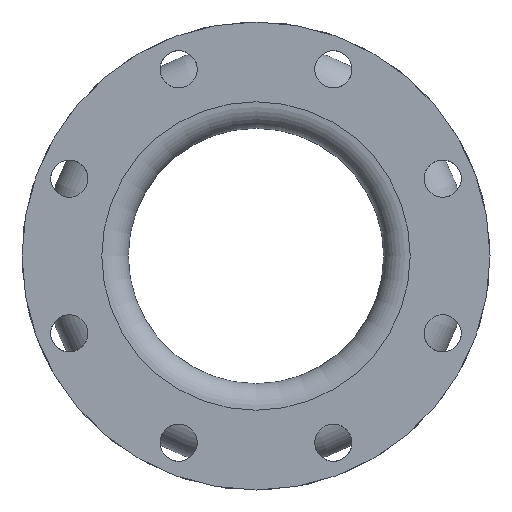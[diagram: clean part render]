
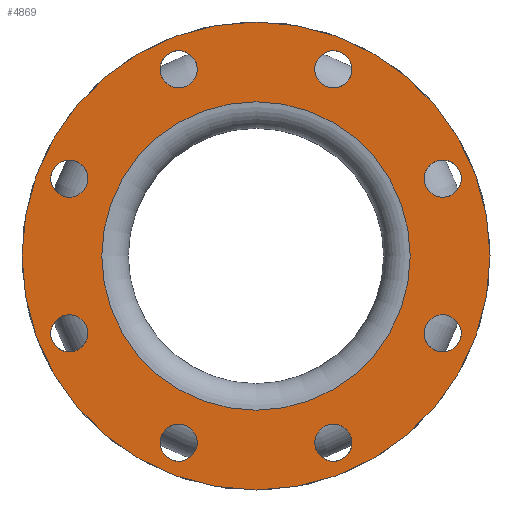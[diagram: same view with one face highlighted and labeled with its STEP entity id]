
A CAD part, left-side view. The second image highlights one B-rep face of the part: STEP entity #4869.
In plain terms, the highlighted planar face has unit normal (-1, 0, 0).
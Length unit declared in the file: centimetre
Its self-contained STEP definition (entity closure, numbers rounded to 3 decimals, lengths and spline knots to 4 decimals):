
#94=FACE_BOUND('',#847,.T.);
#95=FACE_BOUND('',#848,.T.);
#96=FACE_BOUND('',#849,.T.);
#97=FACE_BOUND('',#850,.T.);
#98=FACE_BOUND('',#851,.T.);
#99=FACE_BOUND('',#852,.T.);
#100=FACE_BOUND('',#853,.T.);
#101=FACE_BOUND('',#854,.T.);
#102=FACE_BOUND('',#855,.T.);
#103=FACE_BOUND('',#856,.T.);
#847=EDGE_LOOP('',(#3715));
#848=EDGE_LOOP('',(#3716));
#849=EDGE_LOOP('',(#3717));
#850=EDGE_LOOP('',(#3718));
#851=EDGE_LOOP('',(#3719));
#852=EDGE_LOOP('',(#3720));
#853=EDGE_LOOP('',(#3721));
#854=EDGE_LOOP('',(#3722));
#855=EDGE_LOOP('',(#3723));
#856=EDGE_LOOP('',(#3724));
#1702=CIRCLE('',#5311,1.1113);
#1704=CIRCLE('',#5314,1.1113);
#1706=CIRCLE('',#5317,1.1113);
#1708=CIRCLE('',#5320,1.1113);
#1710=CIRCLE('',#5323,1.1113);
#1712=CIRCLE('',#5326,1.1113);
#1714=CIRCLE('',#5329,1.1113);
#1716=CIRCLE('',#5332,1.1113);
#1744=CIRCLE('',#5379,9.2075);
#1745=CIRCLE('',#5381,13.97);
#2150=VERTEX_POINT('',#7975);
#2152=VERTEX_POINT('',#7980);
#2154=VERTEX_POINT('',#7985);
#2156=VERTEX_POINT('',#7990);
#2158=VERTEX_POINT('',#7995);
#2160=VERTEX_POINT('',#8000);
#2162=VERTEX_POINT('',#8005);
#2164=VERTEX_POINT('',#8010);
#2192=VERTEX_POINT('',#8085);
#2193=VERTEX_POINT('',#8088);
#2710=EDGE_CURVE('',#2150,#2150,#1702,.T.);
#2712=EDGE_CURVE('',#2152,#2152,#1704,.T.);
#2714=EDGE_CURVE('',#2154,#2154,#1706,.T.);
#2716=EDGE_CURVE('',#2156,#2156,#1708,.T.);
#2718=EDGE_CURVE('',#2158,#2158,#1710,.T.);
#2720=EDGE_CURVE('',#2160,#2160,#1712,.T.);
#2722=EDGE_CURVE('',#2162,#2162,#1714,.T.);
#2724=EDGE_CURVE('',#2164,#2164,#1716,.T.);
#2752=EDGE_CURVE('',#2192,#2192,#1744,.T.);
#2753=EDGE_CURVE('',#2193,#2193,#1745,.T.);
#3715=ORIENTED_EDGE('',*,*,#2710,.T.);
#3716=ORIENTED_EDGE('',*,*,#2712,.T.);
#3717=ORIENTED_EDGE('',*,*,#2714,.T.);
#3718=ORIENTED_EDGE('',*,*,#2716,.T.);
#3719=ORIENTED_EDGE('',*,*,#2718,.T.);
#3720=ORIENTED_EDGE('',*,*,#2720,.T.);
#3721=ORIENTED_EDGE('',*,*,#2722,.T.);
#3722=ORIENTED_EDGE('',*,*,#2724,.T.);
#3723=ORIENTED_EDGE('',*,*,#2753,.F.);
#3724=ORIENTED_EDGE('',*,*,#2752,.T.);
#4413=PLANE('',#5380);
#4869=ADVANCED_FACE('',(#94,#95,#96,#97,#98,#99,#100,#101,#102,#103),#4413,
 .T.);
#5311=AXIS2_PLACEMENT_3D('',#7976,#6433,#6434);
#5314=AXIS2_PLACEMENT_3D('',#7981,#6439,#6440);
#5317=AXIS2_PLACEMENT_3D('',#7986,#6445,#6446);
#5320=AXIS2_PLACEMENT_3D('',#7991,#6451,#6452);
#5323=AXIS2_PLACEMENT_3D('',#7996,#6457,#6458);
#5326=AXIS2_PLACEMENT_3D('',#8001,#6463,#6464);
#5329=AXIS2_PLACEMENT_3D('',#8006,#6469,#6470);
#5332=AXIS2_PLACEMENT_3D('',#8011,#6475,#6476);
#5379=AXIS2_PLACEMENT_3D('',#8086,#6569,#6570);
#5380=AXIS2_PLACEMENT_3D('',#8087,#6571,#6572);
#5381=AXIS2_PLACEMENT_3D('',#8089,#6573,#6574);
#6433=DIRECTION('center_axis',(1.,0.,0.));
#6434=DIRECTION('ref_axis',(0.,-0.707,0.707));
#6439=DIRECTION('center_axis',(1.,0.,0.));
#6440=DIRECTION('ref_axis',(0.,0.,
1.));
#6445=DIRECTION('center_axis',(1.,0.,0.));
#6446=DIRECTION('ref_axis',(0.,0.707,0.707));
#6451=DIRECTION('center_axis',(1.,0.,0.));
#6452=DIRECTION('ref_axis',(0.,1.,0.));
#6457=DIRECTION('center_axis',(1.,0.,0.));
#6458=DIRECTION('ref_axis',(0.,0.707,-0.707));
#6463=DIRECTION('center_axis',(1.,0.,0.));
#6464=DIRECTION('ref_axis',(0.,0.,-1.));
#6469=DIRECTION('center_axis',(1.,0.,0.));
#6470=DIRECTION('ref_axis',(0.,-0.707,-0.707));
#6475=DIRECTION('center_axis',(1.,0.,0.));
#6476=DIRECTION('ref_axis',(0.,-1.,0.));
#6569=DIRECTION('center_axis',(1.,0.,0.));
#6570=DIRECTION('ref_axis',(0.,0.,-1.));
#6571=DIRECTION('center_axis',(-1.,0.,0.));
#6572=DIRECTION('ref_axis',(0.,0.,1.));
#6573=DIRECTION('center_axis',(1.,0.,0.));
#6574=DIRECTION('ref_axis',(0.,0.,-1.));
#7975=CARTESIAN_POINT('',(-12.7,5.4028,-11.9324));
#7976=CARTESIAN_POINT('Origin',(-12.7,4.6171,-11.1466));
#7980=CARTESIAN_POINT('',(-12.7,-4.6171,-12.2579));
#7981=CARTESIAN_POINT('Origin',(-12.7,-4.6171,-11.1466));
#7985=CARTESIAN_POINT('',(-12.7,-11.9324,-5.4028));
#7986=CARTESIAN_POINT('Origin',(-12.7,-11.1466,-4.6171));
#7990=CARTESIAN_POINT('',(-12.7,-12.2579,4.6171));
#7991=CARTESIAN_POINT('Origin',(-12.7,-11.1466,4.6171));
#7995=CARTESIAN_POINT('',(-12.7,-5.4028,11.9324));
#7996=CARTESIAN_POINT('Origin',(-12.7,-4.6171,11.1466));
#8000=CARTESIAN_POINT('',(-12.7,4.6171,12.2579));
#8001=CARTESIAN_POINT('Origin',(-12.7,4.6171,11.1466));
#8005=CARTESIAN_POINT('',(-12.7,11.9324,5.4028));
#8006=CARTESIAN_POINT('Origin',(-12.7,11.1466,4.6171));
#8010=CARTESIAN_POINT('',(-12.7,12.2579,-4.6171));
#8011=CARTESIAN_POINT('Origin',(-12.7,11.1466,-4.6171));
#8085=CARTESIAN_POINT('',(-12.7,9.2075,0.));
#8086=CARTESIAN_POINT('Origin',(-12.7,0.,0.));
#8087=CARTESIAN_POINT('Origin',(-12.7,13.97,0.));
#8088=CARTESIAN_POINT('',(-12.7,13.97,0.));
#8089=CARTESIAN_POINT('Origin',(-12.7,0.,0.));
